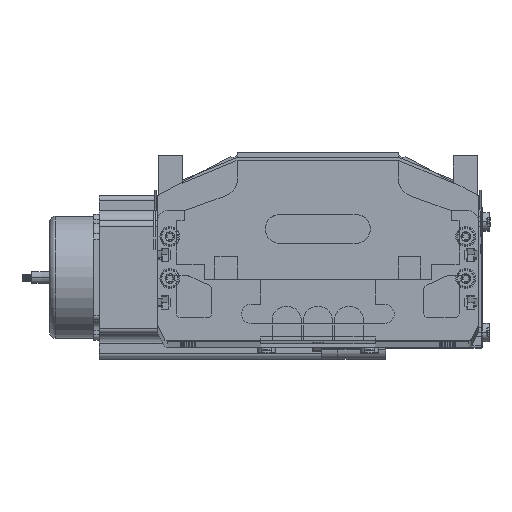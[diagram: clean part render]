
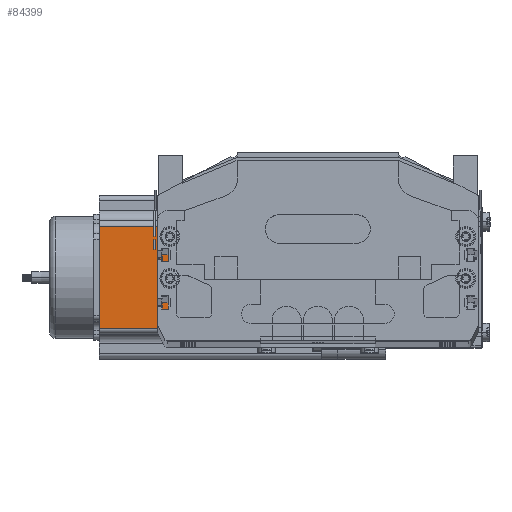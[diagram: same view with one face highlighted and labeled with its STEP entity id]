
A CAD part, top view. The second image highlights one B-rep face of the part: STEP entity #84399.
In plain terms, the highlighted planar face has unit normal (0, 0, 1) as drawn and (0, -1, 0) by its records, which use the part's own axes.
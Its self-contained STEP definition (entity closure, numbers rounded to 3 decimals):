
#45360 = CARTESIAN_POINT ( 'NONE',  ( 0., 0., 116.5 ) ) ;
#45362 = LINE ( 'NONE', #45360, #45477 ) ;
#45390 = CARTESIAN_POINT ( 'NONE',  ( 16.16, 0., 0. ) ) ;
#45450 = DIRECTION ( 'NONE',  ( 0., 0., 1. ) ) ;
#45451 = VECTOR ( 'NONE', #45450, 1000. ) ;
#45453 = CARTESIAN_POINT ( 'NONE',  ( 69.74, 0., 116.5 ) ) ;
#45474 = LINE ( 'NONE', #45453, #45451 ) ;
#45476 = DIRECTION ( 'NONE',  ( 1., 0., 0. ) ) ;
#45477 = VECTOR ( 'NONE', #45476, 1000. ) ;
#45948 = DIRECTION ( 'NONE',  ( 0., 0., 1. ) ) ;
#45950 = DIRECTION ( 'NONE',  ( 0., 1., 0. ) ) ;
#45951 = CARTESIAN_POINT ( 'NONE',  ( 0., 0., 116.5 ) ) ;
#45952 = AXIS2_PLACEMENT_3D ( 'NONE', #45951, #45950, #45948 ) ;
#45967 = PLANE ( 'NONE',  #45952 ) ;
#45968 = FACE_OUTER_BOUND ( 'NONE', #84400, .T. ) ;
#47611 = DIRECTION ( 'NONE',  ( 1., 0., 0. ) ) ;
#47612 = VECTOR ( 'NONE', #47611, 1000. ) ;
#47614 = CARTESIAN_POINT ( 'NONE',  ( 0., 0., 0. ) ) ;
#47616 = LINE ( 'NONE', #47614, #47612 ) ;
#47619 = CARTESIAN_POINT ( 'NONE',  ( 69.74, 0., 116.5 ) ) ;
#47620 = CARTESIAN_POINT ( 'NONE',  ( 16.16, 0., 116.5 ) ) ;
#47664 = DIRECTION ( 'NONE',  ( 0., 0., -1. ) ) ;
#47666 = VECTOR ( 'NONE', #47664, 1000. ) ;
#47668 = CARTESIAN_POINT ( 'NONE',  ( 16.16, 0., 116.5 ) ) ;
#47671 = CARTESIAN_POINT ( 'NONE',  ( 69.74, 0., 0. ) ) ;
#47672 = LINE ( 'NONE', #47668, #47666 ) ;
#84187 = ORIENTED_EDGE ( 'NONE', *, *, #84199, .T. ) ;
#84189 = VERTEX_POINT ( 'NONE', #45390 ) ;
#84190 = EDGE_CURVE ( 'NONE', #84530, #84531, #45362, .T. ) ;
#84199 = EDGE_CURVE ( 'NONE', #84545, #84531, #45474, .T. ) ;
#84399 = ADVANCED_FACE ( 'NONE', ( #45968 ), #45967, .F. ) ;
#84400 = EDGE_LOOP ( 'NONE', ( #84523, #84187, #84544, #84543 ) ) ;
#84523 = ORIENTED_EDGE ( 'NONE', *, *, #84532, .T. ) ;
#84530 = VERTEX_POINT ( 'NONE', #47620 ) ;
#84531 = VERTEX_POINT ( 'NONE', #47619 ) ;
#84532 = EDGE_CURVE ( 'NONE', #84189, #84545, #47616, .T. ) ;
#84537 = EDGE_CURVE ( 'NONE', #84530, #84189, #47672, .T. ) ;
#84543 = ORIENTED_EDGE ( 'NONE', *, *, #84537, .T. ) ;
#84544 = ORIENTED_EDGE ( 'NONE', *, *, #84190, .F. ) ;
#84545 = VERTEX_POINT ( 'NONE', #47671 ) ;
